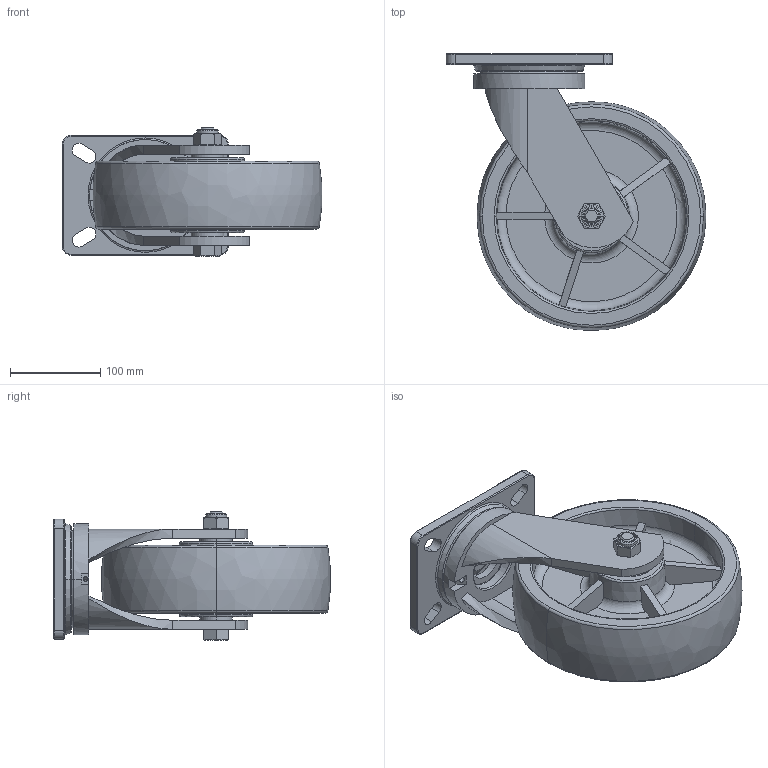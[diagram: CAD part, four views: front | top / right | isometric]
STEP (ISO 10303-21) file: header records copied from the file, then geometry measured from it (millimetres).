
FILE_DESCRIPTION((''),'2;1');
FILE_NAME('93110-86A_ASM','2026-04-02T',('Lenovo'),(''),'PRO/ENGINEER BY PARAMETRIC TECHNOLOGY CORPORATION, 2010280','PRO/ENGINEER BY PARAMETRIC TECHNOLOGY CORPORATION, 2010280','');
FILE_SCHEMA(('CONFIG_CONTROL_DESIGN'));
Length unit declared in the file: millimetre
Products named in the file (11): 9300-211; 9310C11; 9310-201; 9310-986A; 6206; 930-54; 930-66; 9310-86A_ASM; 930-33; 930-34; 93110-86A_ASM
Assembly tree (12 placements, depth 3):
  93110-86A_ASM
    9300-211
    9310C11
    9310-201
    9310-86A_ASM
      9310-986A
      6206  x2
      930-54
      930-66  x2
    930-33
    930-34
Bounding box: 287.66 x 306.65 x 142 mm (x, y, z)
Volume: 2701020.1 mm3; surface area: 463539.4 mm2
Topology: 16 solids, 16 shells, 462 faces, 1192 edges, 700 vertices
Faces by surface type: plane 134, cylinder 108, torus 92, sphere 72, cone 50, bspline 6
Entity records: 12598 total; most frequent: CARTESIAN_POINT 3349, DIRECTION 1972, ORIENTED_EDGE 1808, EDGE_CURVE 904, AXIS2_PLACEMENT_3D 841, VERTEX_POINT 586, EDGE_LOOP 472, CIRCLE 428
